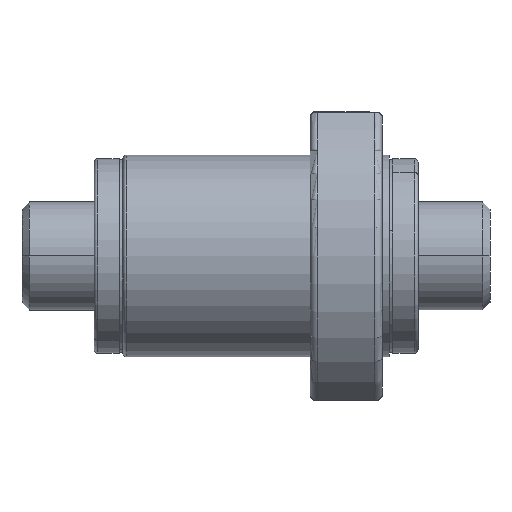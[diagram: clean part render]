
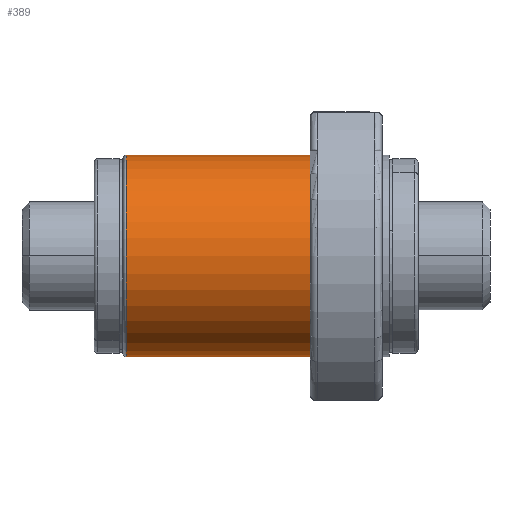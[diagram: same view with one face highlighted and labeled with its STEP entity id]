
A CAD part, front view. The second image highlights one B-rep face of the part: STEP entity #389.
In plain terms, the highlighted cylindrical face has radius 14 mm (diameter 28 mm), a partial arc.
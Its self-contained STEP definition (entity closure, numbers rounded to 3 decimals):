
#204 = ORIENTED_EDGE ( 'NONE', *, *, #1297, .T. ) ;
#389 = ADVANCED_FACE ( 'NONE', ( #6292 ), #4343, .T. ) ;
#400 = EDGE_CURVE ( 'NONE', #1094, #3932, #3725, .T. ) ;
#572 = ORIENTED_EDGE ( 'NONE', *, *, #4722, .T. ) ;
#935 = VERTEX_POINT ( 'NONE', #6267 ) ;
#1094 = VERTEX_POINT ( 'NONE', #5579 ) ;
#1233 = CIRCLE ( 'NONE', #5123, 14. ) ;
#1238 = ORIENTED_EDGE ( 'NONE', *, *, #400, .F. ) ;
#1297 = EDGE_CURVE ( 'NONE', #1094, #2958, #4774, .T. ) ;
#1352 = DIRECTION ( 'NONE',  ( 0., 0., 1. ) ) ;
#1563 = AXIS2_PLACEMENT_3D ( 'NONE', #4872, #1847, #1352 ) ;
#1700 = CARTESIAN_POINT ( 'NONE',  ( -26.5, 0., -14. ) ) ;
#1754 = CARTESIAN_POINT ( 'NONE',  ( -1., 0., 14. ) ) ;
#1847 = DIRECTION ( 'NONE',  ( 1., 0., 0. ) ) ;
#2489 = CARTESIAN_POINT ( 'NONE',  ( -27., 0., -14. ) ) ;
#2958 = VERTEX_POINT ( 'NONE', #1700 ) ;
#2967 = CARTESIAN_POINT ( 'NONE',  ( -27., 0., 14. ) ) ;
#3367 = DIRECTION ( 'NONE',  ( -1., 0., 0. ) ) ;
#3390 = DIRECTION ( 'NONE',  ( 0., 0., -1. ) ) ;
#3725 = LINE ( 'NONE', #2967, #4407 ) ;
#3853 = EDGE_LOOP ( 'NONE', ( #1238, #204, #4142, #572 ) ) ;
#3932 = VERTEX_POINT ( 'NONE', #1754 ) ;
#4142 = ORIENTED_EDGE ( 'NONE', *, *, #6280, .T. ) ;
#4213 = AXIS2_PLACEMENT_3D ( 'NONE', #5390, #5412, #6404 ) ;
#4343 = CYLINDRICAL_SURFACE ( 'NONE', #4213, 14. ) ;
#4407 = VECTOR ( 'NONE', #6322, 1000. ) ;
#4722 = EDGE_CURVE ( 'NONE', #935, #3932, #1233, .T. ) ;
#4774 = CIRCLE ( 'NONE', #1563, 14. ) ;
#4872 = CARTESIAN_POINT ( 'NONE',  ( -26.5, 0., 0. ) ) ;
#4966 = DIRECTION ( 'NONE',  ( 1., 0., 0. ) ) ;
#5123 = AXIS2_PLACEMENT_3D ( 'NONE', #6287, #3367, #3390 ) ;
#5247 = LINE ( 'NONE', #2489, #6154 ) ;
#5390 = CARTESIAN_POINT ( 'NONE',  ( -27., 0., 0. ) ) ;
#5412 = DIRECTION ( 'NONE',  ( 1., 0., 0. ) ) ;
#5579 = CARTESIAN_POINT ( 'NONE',  ( -26.5, 0., 14. ) ) ;
#6154 = VECTOR ( 'NONE', #4966, 1000. ) ;
#6267 = CARTESIAN_POINT ( 'NONE',  ( -1., 0., -14. ) ) ;
#6280 = EDGE_CURVE ( 'NONE', #2958, #935, #5247, .T. ) ;
#6287 = CARTESIAN_POINT ( 'NONE',  ( -1., 0., 0. ) ) ;
#6292 = FACE_OUTER_BOUND ( 'NONE', #3853, .T. ) ;
#6322 = DIRECTION ( 'NONE',  ( 1., 0., 0. ) ) ;
#6404 = DIRECTION ( 'NONE',  ( 0., 0., -1. ) ) ;
